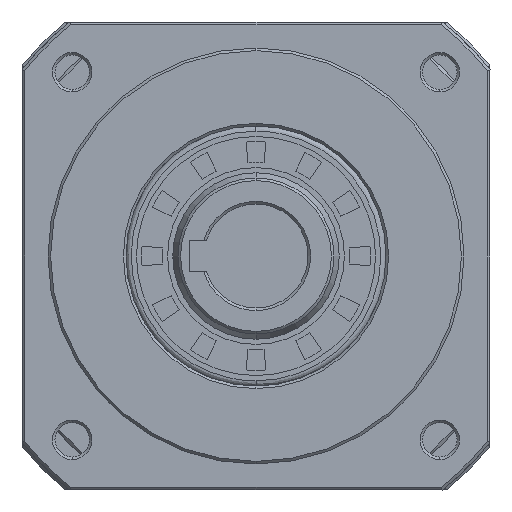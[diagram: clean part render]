
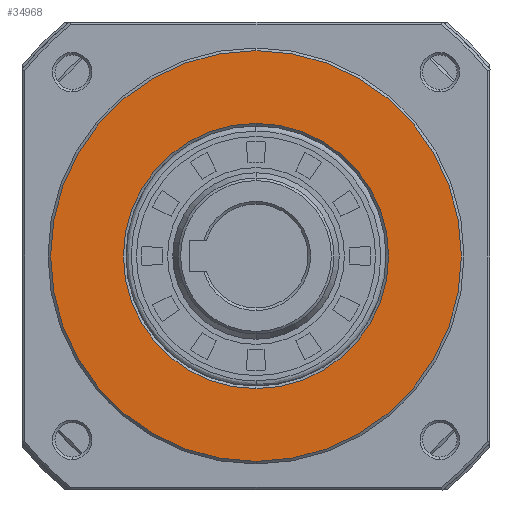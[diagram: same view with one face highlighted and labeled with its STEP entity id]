
A CAD part, left-side view. The second image highlights one B-rep face of the part: STEP entity #34968.
In plain terms, the highlighted planar face has unit normal (-1, 0, 0).
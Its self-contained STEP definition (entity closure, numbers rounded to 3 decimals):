
#2702 = DIRECTION ( 'NONE',  ( -1., 0., 0. ) ) ;
#4166 = CARTESIAN_POINT ( 'NONE',  ( 0., 0., 0. ) ) ;
#9226 = DIRECTION ( 'NONE',  ( 0., 0., -1. ) ) ;
#12810 = VERTEX_POINT ( 'NONE', #32325 ) ;
#13012 = CIRCLE ( 'NONE', #79068, 25.5 ) ;
#13649 = ORIENTED_EDGE ( 'NONE', *, *, #66998, .T. ) ;
#18732 = FACE_BOUND ( 'NONE', #42066, .T. ) ;
#18961 = DIRECTION ( 'NONE',  ( -1., 0., 0. ) ) ;
#20239 = CARTESIAN_POINT ( 'NONE',  ( 0., 0., 0. ) ) ;
#20847 = FACE_OUTER_BOUND ( 'NONE', #37381, .T. ) ;
#21890 = CARTESIAN_POINT ( 'NONE',  ( 0., -39.974, 39.974 ) ) ;
#23928 = EDGE_CURVE ( 'NONE', #63629, #39140, #65897, .T. ) ;
#24999 = AXIS2_PLACEMENT_3D ( 'NONE', #4166, #30598, #30301 ) ;
#26525 = DIRECTION ( 'NONE',  ( -1., 0., 0. ) ) ;
#27868 = CARTESIAN_POINT ( 'NONE',  ( 0., 0., -39.5 ) ) ;
#28753 = VERTEX_POINT ( 'NONE', #67053 ) ;
#30010 = AXIS2_PLACEMENT_3D ( 'NONE', #21890, #56069, #82834 ) ;
#30301 = DIRECTION ( 'NONE',  ( 0., 0., -1. ) ) ;
#30598 = DIRECTION ( 'NONE',  ( -1., 0., 0. ) ) ;
#32279 = CIRCLE ( 'NONE', #68993, 25.5 ) ;
#32325 = CARTESIAN_POINT ( 'NONE',  ( 0., 0., 25.5 ) ) ;
#32611 = DIRECTION ( 'NONE',  ( 0., 0., 1. ) ) ;
#34968 = ADVANCED_FACE ( 'NONE', ( #18732, #20847 ), #62633, .F. ) ;
#37381 = EDGE_LOOP ( 'NONE', ( #13649, #60657 ) ) ;
#39140 = VERTEX_POINT ( 'NONE', #27868 ) ;
#42066 = EDGE_LOOP ( 'NONE', ( #72937, #44955 ) ) ;
#44955 = ORIENTED_EDGE ( 'NONE', *, *, #79900, .F. ) ;
#46464 = AXIS2_PLACEMENT_3D ( 'NONE', #63337, #2702, #9226 ) ;
#47357 = CARTESIAN_POINT ( 'NONE',  ( 0., 0., 39.5 ) ) ;
#51789 = EDGE_CURVE ( 'NONE', #12810, #28753, #32279, .T. ) ;
#52844 = CARTESIAN_POINT ( 'NONE',  ( 0., 0., 0. ) ) ;
#56069 = DIRECTION ( 'NONE',  ( 1., 0., 0. ) ) ;
#60657 = ORIENTED_EDGE ( 'NONE', *, *, #23928, .T. ) ;
#62633 = PLANE ( 'NONE',  #30010 ) ;
#63337 = CARTESIAN_POINT ( 'NONE',  ( 0., 0., 0. ) ) ;
#63629 = VERTEX_POINT ( 'NONE', #47357 ) ;
#65897 = CIRCLE ( 'NONE', #24999, 39.5 ) ;
#66998 = EDGE_CURVE ( 'NONE', #39140, #63629, #78252, .T. ) ;
#67053 = CARTESIAN_POINT ( 'NONE',  ( 0., 0., -25.5 ) ) ;
#67811 = DIRECTION ( 'NONE',  ( 0., 0., 1. ) ) ;
#68993 = AXIS2_PLACEMENT_3D ( 'NONE', #20239, #26525, #67811 ) ;
#72937 = ORIENTED_EDGE ( 'NONE', *, *, #51789, .F. ) ;
#78252 = CIRCLE ( 'NONE', #46464, 39.5 ) ;
#79068 = AXIS2_PLACEMENT_3D ( 'NONE', #52844, #18961, #32611 ) ;
#79900 = EDGE_CURVE ( 'NONE', #28753, #12810, #13012, .T. ) ;
#82834 = DIRECTION ( 'NONE',  ( 0., 0., -1. ) ) ;
